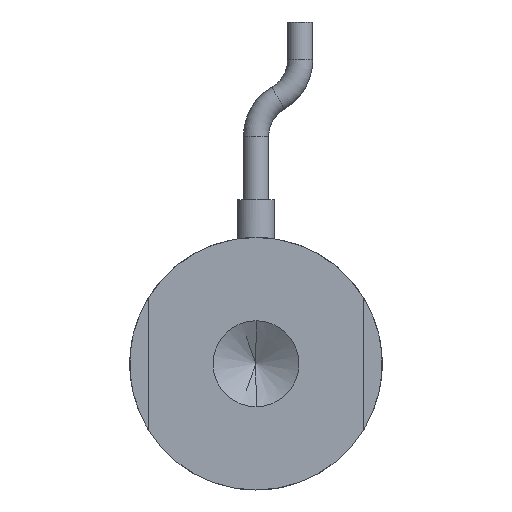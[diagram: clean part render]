
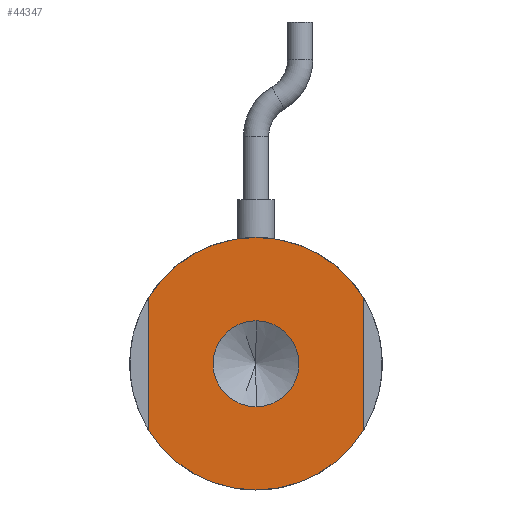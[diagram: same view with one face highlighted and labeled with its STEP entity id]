
A CAD part, front view. The second image highlights one B-rep face of the part: STEP entity #44347.
In plain terms, the highlighted planar face has unit normal (0, -1, 0) by its records, which use the part's own axes.
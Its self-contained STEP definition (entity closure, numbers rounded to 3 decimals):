
#426 = CARTESIAN_POINT ( 'NONE',  ( 8.5, 0., -5.268 ) ) ;
#1051 = VERTEX_POINT ( 'NONE', #24486 ) ;
#1057 = CARTESIAN_POINT ( 'NONE',  ( 8.5, 0., 5.268 ) ) ;
#1216 = AXIS2_PLACEMENT_3D ( 'NONE', #23096, #2133, #26586 ) ;
#2133 = DIRECTION ( 'NONE',  ( 0., 1., 0. ) ) ;
#2906 = VERTEX_POINT ( 'NONE', #22582 ) ;
#2910 = EDGE_CURVE ( 'NONE', #43048, #39186, #7144, .T. ) ;
#3093 = FACE_BOUND ( 'NONE', #42130, .T. ) ;
#3678 = AXIS2_PLACEMENT_3D ( 'NONE', #10970, #35395, #14520 ) ;
#3756 = CARTESIAN_POINT ( 'NONE',  ( -8.5, 0., 0. ) ) ;
#4912 = VERTEX_POINT ( 'NONE', #6969 ) ;
#5022 = DIRECTION ( 'NONE',  ( 0., 1., 0. ) ) ;
#6930 = CARTESIAN_POINT ( 'NONE',  ( 0., 0., 0. ) ) ;
#6969 = CARTESIAN_POINT ( 'NONE',  ( 0., 0., 10. ) ) ;
#7144 = CIRCLE ( 'NONE', #36616, 10. ) ;
#7272 = EDGE_CURVE ( 'NONE', #43075, #2906, #19567, .T. ) ;
#8078 = AXIS2_PLACEMENT_3D ( 'NONE', #6930, #10414, #34850 ) ;
#8631 = AXIS2_PLACEMENT_3D ( 'NONE', #39816, #19016, #43336 ) ;
#8791 = EDGE_LOOP ( 'NONE', ( #18245, #28116, #29767, #30336, #11806, #18561 ) ) ;
#9033 = EDGE_CURVE ( 'NONE', #22272, #43048, #35881, .T. ) ;
#9462 = DIRECTION ( 'NONE',  ( 0., -1., 0. ) ) ;
#10414 = DIRECTION ( 'NONE',  ( 0., 1., 0. ) ) ;
#10824 = EDGE_CURVE ( 'NONE', #2906, #43075, #33198, .T. ) ;
#10970 = CARTESIAN_POINT ( 'NONE',  ( 0., 0., 0. ) ) ;
#11140 = ORIENTED_EDGE ( 'NONE', *, *, #7272, .F. ) ;
#11806 = ORIENTED_EDGE ( 'NONE', *, *, #39126, .F. ) ;
#12952 = CARTESIAN_POINT ( 'NONE',  ( 0., 0., -10. ) ) ;
#13793 = PLANE ( 'NONE',  #8078 ) ;
#14316 = DIRECTION ( 'NONE',  ( 0., 0., 1. ) ) ;
#14520 = DIRECTION ( 'NONE',  ( 0., 0., 1. ) ) ;
#15098 = CIRCLE ( 'NONE', #1216, 10. ) ;
#18245 = ORIENTED_EDGE ( 'NONE', *, *, #18418, .F. ) ;
#18418 = EDGE_CURVE ( 'NONE', #39186, #1051, #24804, .T. ) ;
#18561 = ORIENTED_EDGE ( 'NONE', *, *, #19591, .F. ) ;
#19016 = DIRECTION ( 'NONE',  ( 0., -1., 0. ) ) ;
#19567 = CIRCLE ( 'NONE', #8631, 3.4 ) ;
#19588 = LINE ( 'NONE', #28036, #27769 ) ;
#19591 = EDGE_CURVE ( 'NONE', #1051, #4912, #40502, .T. ) ;
#21715 = FACE_OUTER_BOUND ( 'NONE', #8791, .T. ) ;
#22272 = VERTEX_POINT ( 'NONE', #426 ) ;
#22335 = DIRECTION ( 'NONE',  ( 0., 0., 1. ) ) ;
#22344 = DIRECTION ( 'NONE',  ( 0., 1., 0. ) ) ;
#22375 = CARTESIAN_POINT ( 'NONE',  ( 0., 0., 0. ) ) ;
#22582 = CARTESIAN_POINT ( 'NONE',  ( 0., 0., 3.4 ) ) ;
#23096 = CARTESIAN_POINT ( 'NONE',  ( 0., 0., 0. ) ) ;
#23288 = VERTEX_POINT ( 'NONE', #1057 ) ;
#24486 = CARTESIAN_POINT ( 'NONE',  ( -8.5, 0., 5.268 ) ) ;
#24804 = LINE ( 'NONE', #3756, #32994 ) ;
#25752 = AXIS2_PLACEMENT_3D ( 'NONE', #25933, #5022, #29445 ) ;
#25933 = CARTESIAN_POINT ( 'NONE',  ( 0., 0., 0. ) ) ;
#26586 = DIRECTION ( 'NONE',  ( 0., 0., 1. ) ) ;
#27769 = VECTOR ( 'NONE', #31563, 1000. ) ;
#28036 = CARTESIAN_POINT ( 'NONE',  ( 8.5, 0., 0. ) ) ;
#28116 = ORIENTED_EDGE ( 'NONE', *, *, #2910, .F. ) ;
#29445 = DIRECTION ( 'NONE',  ( 0., 0., 1. ) ) ;
#29767 = ORIENTED_EDGE ( 'NONE', *, *, #9033, .F. ) ;
#30336 = ORIENTED_EDGE ( 'NONE', *, *, #34267, .F. ) ;
#30399 = CARTESIAN_POINT ( 'NONE',  ( 0., 0., 0. ) ) ;
#31563 = DIRECTION ( 'NONE',  ( 0., 0., -1. ) ) ;
#32994 = VECTOR ( 'NONE', #14316, 1000. ) ;
#33198 = CIRCLE ( 'NONE', #43971, 3.4 ) ;
#33869 = CARTESIAN_POINT ( 'NONE',  ( 0., 0., -3.4 ) ) ;
#33915 = DIRECTION ( 'NONE',  ( 0., 0., -1. ) ) ;
#34267 = EDGE_CURVE ( 'NONE', #23288, #22272, #19588, .T. ) ;
#34850 = DIRECTION ( 'NONE',  ( 0., 0., 1. ) ) ;
#35395 = DIRECTION ( 'NONE',  ( 0., 1., 0. ) ) ;
#35881 = CIRCLE ( 'NONE', #3678, 10. ) ;
#36616 = AXIS2_PLACEMENT_3D ( 'NONE', #22375, #22344, #22335 ) ;
#36842 = ORIENTED_EDGE ( 'NONE', *, *, #10824, .F. ) ;
#39126 = EDGE_CURVE ( 'NONE', #4912, #23288, #15098, .T. ) ;
#39186 = VERTEX_POINT ( 'NONE', #43902 ) ;
#39816 = CARTESIAN_POINT ( 'NONE',  ( 0., 0., 0. ) ) ;
#40502 = CIRCLE ( 'NONE', #25752, 10. ) ;
#42130 = EDGE_LOOP ( 'NONE', ( #11140, #36842 ) ) ;
#43048 = VERTEX_POINT ( 'NONE', #12952 ) ;
#43075 = VERTEX_POINT ( 'NONE', #33869 ) ;
#43336 = DIRECTION ( 'NONE',  ( 0., 0., -1. ) ) ;
#43902 = CARTESIAN_POINT ( 'NONE',  ( -8.5, 0., -5.268 ) ) ;
#43971 = AXIS2_PLACEMENT_3D ( 'NONE', #30399, #9462, #33915 ) ;
#44347 = ADVANCED_FACE ( 'NONE', ( #3093, #21715 ), #13793, .F. ) ;
